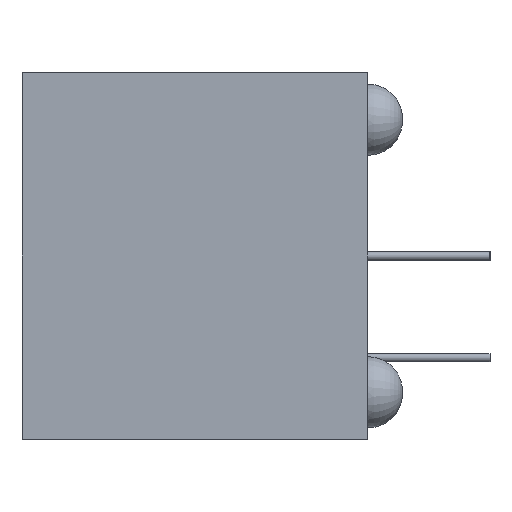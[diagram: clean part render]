
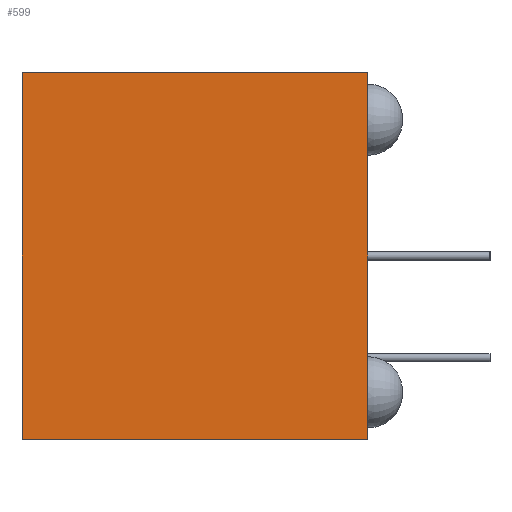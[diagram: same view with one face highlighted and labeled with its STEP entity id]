
A CAD part, left-side view. The second image highlights one B-rep face of the part: STEP entity #599.
In plain terms, the highlighted planar face has unit normal (-1, 0, 0).
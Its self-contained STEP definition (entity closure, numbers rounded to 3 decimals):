
#30 = PLANE ( 'NONE',  #440 ) ;
#31 = CARTESIAN_POINT ( 'NONE',  ( -35.1, 17., 9. ) ) ;
#32 = DIRECTION ( 'NONE',  ( 1., 0., 0. ) ) ;
#33 = DIRECTION ( 'NONE',  ( 0., 0., -1. ) ) ;
#174 = VERTEX_POINT ( 'NONE', #802 ) ;
#175 = VERTEX_POINT ( 'NONE', #803 ) ;
#177 = VERTEX_POINT ( 'NONE', #805 ) ;
#186 = VERTEX_POINT ( 'NONE', #814 ) ;
#250 = ORIENTED_EDGE ( 'NONE', *, *, #351, .T. ) ;
#254 = ORIENTED_EDGE ( 'NONE', *, *, #352, .F. ) ;
#255 = ORIENTED_EDGE ( 'NONE', *, *, #342, .T. ) ;
#256 = ORIENTED_EDGE ( 'NONE', *, *, #355, .F. ) ;
#342 = EDGE_CURVE ( 'NONE', #175, #174, #920, .T. ) ;
#351 = EDGE_CURVE ( 'NONE', #177, #175, #947, .T. ) ;
#352 = EDGE_CURVE ( 'NONE', #186, #174, #950, .T. ) ;
#355 = EDGE_CURVE ( 'NONE', #177, #186, #959, .T. ) ;
#440 = AXIS2_PLACEMENT_3D ( 'NONE', #31, #32, #33 ) ;
#444 = FACE_OUTER_BOUND ( 'NONE', #689, .T. ) ;
#552 = VECTOR ( 'NONE', #961, 1000. ) ;
#555 = VECTOR ( 'NONE', #952, 1000. ) ;
#557 = VECTOR ( 'NONE', #949, 1000. ) ;
#569 = VECTOR ( 'NONE', #922, 1000. ) ;
#599 = ADVANCED_FACE ( 'NONE', ( #444 ), #30, .F. ) ;
#689 = EDGE_LOOP ( 'NONE', ( #255, #254, #256, #250 ) ) ;
#802 = CARTESIAN_POINT ( 'NONE',  ( -35.1, 0., 9. ) ) ;
#803 = CARTESIAN_POINT ( 'NONE',  ( -35.1, 0., -9. ) ) ;
#805 = CARTESIAN_POINT ( 'NONE',  ( -35.1, 17., -9. ) ) ;
#814 = CARTESIAN_POINT ( 'NONE',  ( -35.1, 17., 9. ) ) ;
#920 = LINE ( 'NONE', #921, #569 ) ;
#921 = CARTESIAN_POINT ( 'NONE',  ( -35.1, 0., 9. ) ) ;
#922 = DIRECTION ( 'NONE',  ( 0., 0., 1. ) ) ;
#947 = LINE ( 'NONE', #948, #557 ) ;
#948 = CARTESIAN_POINT ( 'NONE',  ( -35.1, 17., -9. ) ) ;
#949 = DIRECTION ( 'NONE',  ( 0., -1., 0. ) ) ;
#950 = LINE ( 'NONE', #951, #555 ) ;
#951 = CARTESIAN_POINT ( 'NONE',  ( -35.1, 17., 9. ) ) ;
#952 = DIRECTION ( 'NONE',  ( 0., -1., 0. ) ) ;
#959 = LINE ( 'NONE', #960, #552 ) ;
#960 = CARTESIAN_POINT ( 'NONE',  ( -35.1, 17., 9. ) ) ;
#961 = DIRECTION ( 'NONE',  ( 0., 0., 1. ) ) ;
